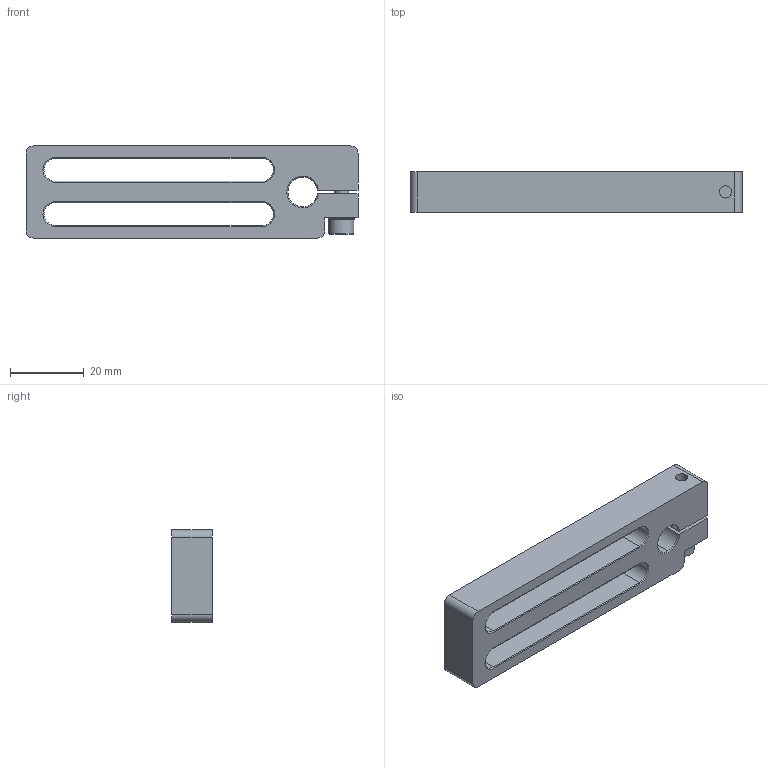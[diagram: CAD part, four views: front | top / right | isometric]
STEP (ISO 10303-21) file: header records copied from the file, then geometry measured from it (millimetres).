
FILE_DESCRIPTION (( 'STEP AP214' ), '1' );
FILE_NAME ('SMBE7-0856.STEP', '2019-12-18T02:55:23', ( '微软用户' ), ( '微软中国' ), 'SwSTEP 2.0', 'SolidWorks 2016', '' );
FILE_SCHEMA (( 'AUTOMOTIVE_DESIGN' ));
Length unit declared in the file: millimetre
Products named in the file (1): SMBE7-0856
Bounding box: 90 x 11 x 25 mm (x, y, z)
Volume: 15286.3 mm3; surface area: 9172 mm2
Topology: 3 solids, 3 shells, 236 faces, 664 edges, 434 vertices
Faces by surface type: plane 193, cylinder 23, cone 20
Entity records: 10318 total; most frequent: DIRECTION 1360, CARTESIAN_POINT 1347, ORIENTED_EDGE 1328, EDGE_CURVE 664, AXIS2_PLACEMENT_3D 463, VERTEX_POINT 434, LINE 434, VECTOR 434
